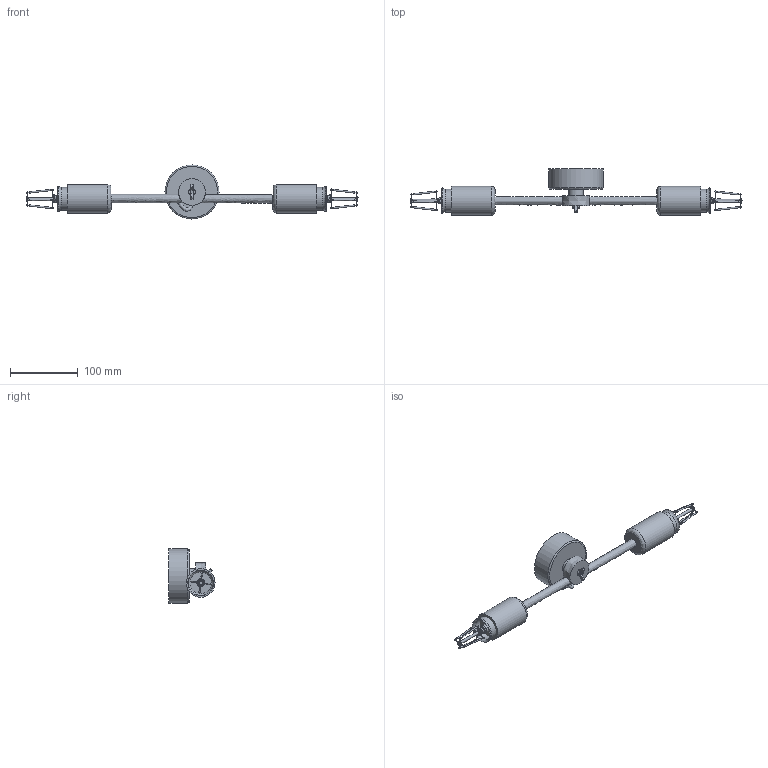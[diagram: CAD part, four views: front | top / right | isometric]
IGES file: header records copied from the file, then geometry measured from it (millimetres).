
Start section: SolidWorks IGES file using analytic representation for surfaces
Global section: file name: X:\PRODUKT\Modele 3D_WWW\_KOLEKCJE WWW\STICKS\STICKS-6267-9077\STICKS-6267-9077.IGS; native system: SolidWorks 2021; preprocessor: SolidWorks 2021; author: gabriela.tworek; date: 221108.120107; units: millimetre
Bounding box: 491.81 x 68.45 x 80 mm (x, y, z)
Surface area: 69758.2 mm2 (no closed solid volume)
Topology: 0 solids, 2 shells, 294 faces, 1234 edges, 1106 vertices
Faces by surface type: bspline 149, revolution 145
